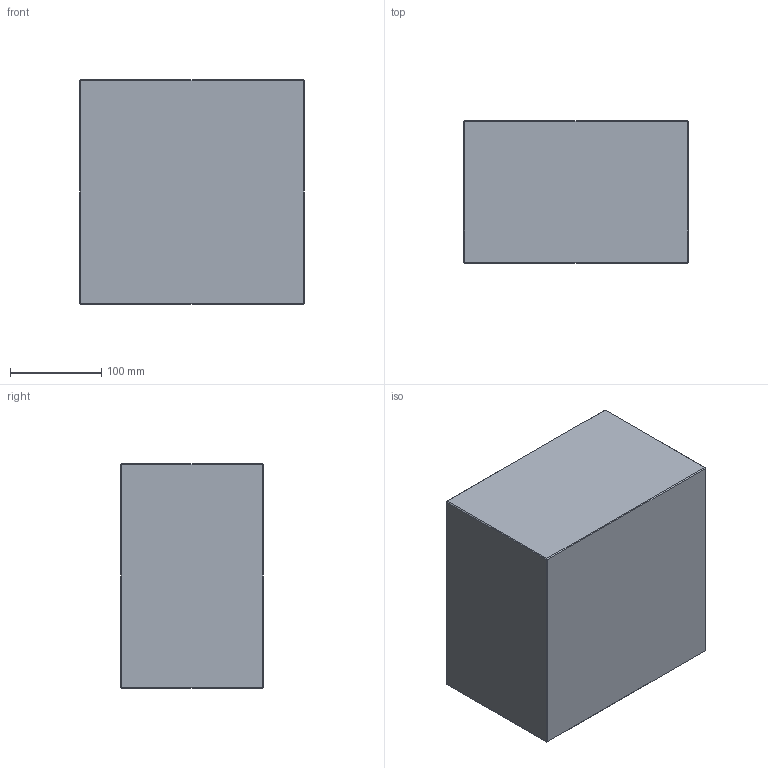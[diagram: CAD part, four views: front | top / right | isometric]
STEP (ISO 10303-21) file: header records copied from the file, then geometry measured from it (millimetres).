
FILE_DESCRIPTION (( 'STEP AP214' ), '1' );
FILE_NAME ('PC-P-246x246x156.STEP', '2020-04-01T08:29:39', ( 'August' ), ( '' ), 'SwSTEP 2.0', 'SolidWorks 2018', '' );
FILE_SCHEMA (( 'AUTOMOTIVE_DESIGN' ));
Length unit declared in the file: millimetre
Products named in the file (1): PC-P-246x246x156
Bounding box: 246 x 156 x 246 mm (x, y, z)
Volume: 9439205.3 mm3; surface area: 273014.6 mm2
Topology: 1 solids, 1 shells, 26 faces, 48 edges, 24 vertices
Faces by surface type: plane 26
Entity records: 634 total; most frequent: DIRECTION 102, CARTESIAN_POINT 99, ORIENTED_EDGE 96, LINE 48, EDGE_CURVE 48, VECTOR 48, AXIS2_PLACEMENT_3D 27, EDGE_LOOP 26
